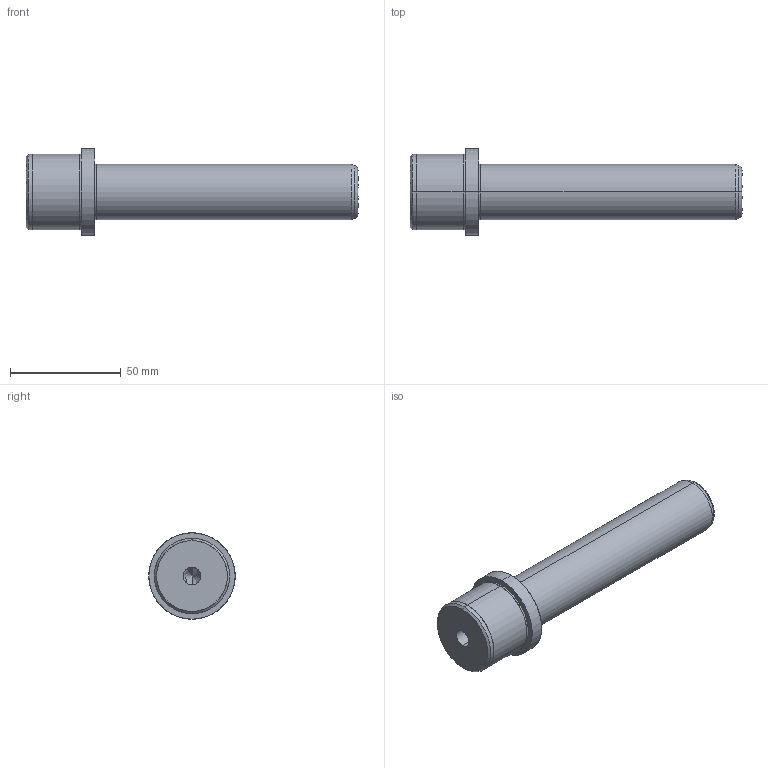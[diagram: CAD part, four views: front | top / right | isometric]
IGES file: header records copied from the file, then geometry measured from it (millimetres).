
Start section: SolidWorks IGES file using analytic representation for surfaces
Global section: file name: C:\Documents and Settings\kalite-mail\Desktop\IGS\D05\D05 - 25x125x25.IGS; native system: SolidWorks 2008; preprocessor: SolidWorks 2008; author: kalite-mail; date: 080617.104144; units: millimetre
Bounding box: 150 x 39 x 39 mm (x, y, z)
Surface area: 15264.7 mm2 (no closed solid volume)
Topology: 0 solids, 0 shells, 29 faces, 760 edges, 758 vertices
Faces by surface type: revolution 20, bspline 9
